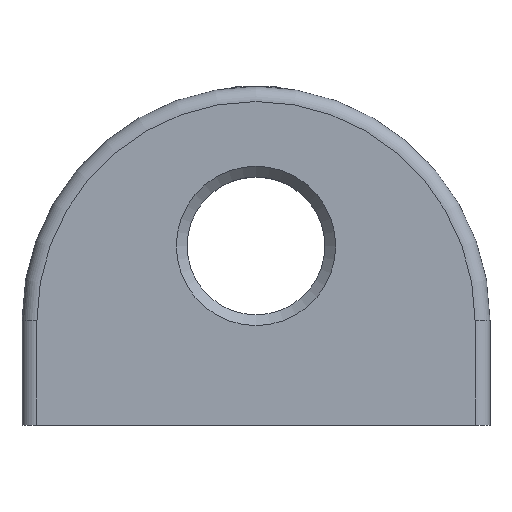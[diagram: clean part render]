
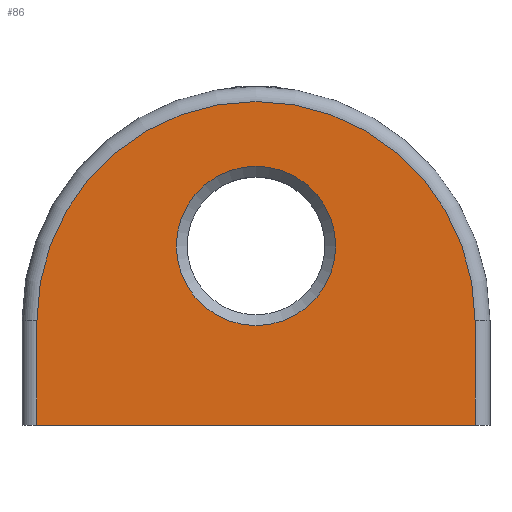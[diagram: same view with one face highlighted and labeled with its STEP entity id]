
A CAD part, top view. The second image highlights one B-rep face of the part: STEP entity #86.
In plain terms, the highlighted planar face has unit normal (0, 0, 1).
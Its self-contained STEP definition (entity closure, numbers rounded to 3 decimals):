
#86 = ADVANCED_FACE( '', ( #148, #149 ), #150, .F. );
#148 = FACE_BOUND( '', #254, .T. );
#149 = FACE_OUTER_BOUND( '', #255, .T. );
#150 = PLANE( '', #256 );
#254 = EDGE_LOOP( '', ( #413 ) );
#255 = EDGE_LOOP( '', ( #414, #415, #416, #417 ) );
#256 = AXIS2_PLACEMENT_3D( '', #418, #419, #420 );
#413 = ORIENTED_EDGE( '', *, *, #621, .T. );
#414 = ORIENTED_EDGE( '', *, *, #651, .F. );
#415 = ORIENTED_EDGE( '', *, *, #628, .F. );
#416 = ORIENTED_EDGE( '', *, *, #652, .T. );
#417 = ORIENTED_EDGE( '', *, *, #644, .T. );
#418 = CARTESIAN_POINT( '', ( -22., 10.5, 7. ) );
#419 = DIRECTION( '', ( 0., 0., -1. ) );
#420 = DIRECTION( '', ( -1., 0., 0. ) );
#621 = EDGE_CURVE( '', #707, #707, #708, .T. );
#628 = EDGE_CURVE( '', #720, #722, #723, .T. );
#644 = EDGE_CURVE( '', #752, #750, #753, .T. );
#651 = EDGE_CURVE( '', #722, #750, #761, .T. );
#652 = EDGE_CURVE( '', #720, #752, #762, .T. );
#707 = VERTEX_POINT( '', #969 );
#708 = CIRCLE( '', #970, 8. );
#720 = VERTEX_POINT( '', #982 );
#722 = VERTEX_POINT( '', #984 );
#723 = CIRCLE( '', #985, 22. );
#750 = VERTEX_POINT( '', #1021 );
#752 = VERTEX_POINT( '', #1023 );
#753 = LINE( '', #1024, #1025 );
#761 = LINE( '', #1037, #1038 );
#762 = LINE( '', #1039, #1040 );
#969 = CARTESIAN_POINT( '', ( -8., 18., 7. ) );
#970 = AXIS2_PLACEMENT_3D( '', #1148, #1149, #1150 );
#982 = CARTESIAN_POINT( '', ( -22., 10.5, 7. ) );
#984 = CARTESIAN_POINT( '', ( 22., 10.5, 7. ) );
#985 = AXIS2_PLACEMENT_3D( '', #1169, #1170, #1171 );
#1021 = CARTESIAN_POINT( '', ( 22., 0., 7. ) );
#1023 = CARTESIAN_POINT( '', ( -22., 0., 7. ) );
#1024 = CARTESIAN_POINT( '', ( -22., 0., 7. ) );
#1025 = VECTOR( '', #1199, 1000. );
#1037 = CARTESIAN_POINT( '', ( 22., 10.5, 7. ) );
#1038 = VECTOR( '', #1210, 1000. );
#1039 = CARTESIAN_POINT( '', ( -22., 10.5, 7. ) );
#1040 = VECTOR( '', #1211, 1000. );
#1148 = CARTESIAN_POINT( '', ( 0., 18., 7. ) );
#1149 = DIRECTION( '', ( 0., 0., -1. ) );
#1150 = DIRECTION( '', ( -1., 0., 0. ) );
#1169 = CARTESIAN_POINT( '', ( 0., 10.5, 7. ) );
#1170 = DIRECTION( '', ( 0., 0., -1. ) );
#1171 = DIRECTION( '', ( -1., 0., 0. ) );
#1199 = DIRECTION( '', ( 1., 0., 0. ) );
#1210 = DIRECTION( '', ( 0., -1., 0. ) );
#1211 = DIRECTION( '', ( 0., -1., 0. ) );
